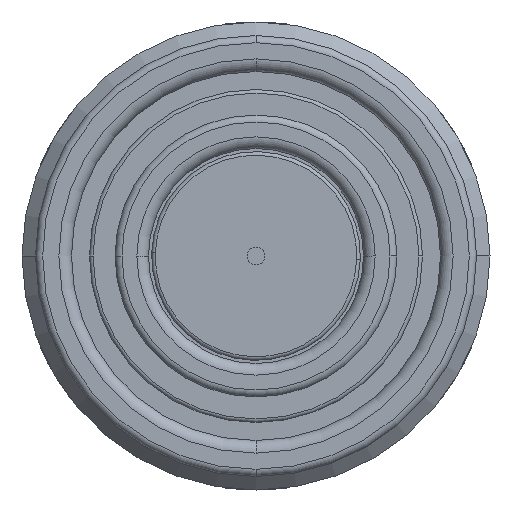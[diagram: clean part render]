
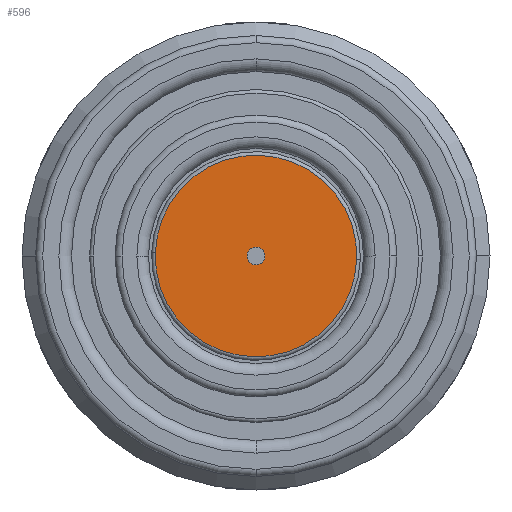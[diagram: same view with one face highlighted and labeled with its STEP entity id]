
A CAD part, front view. The second image highlights one B-rep face of the part: STEP entity #596.
In plain terms, the highlighted planar face has unit normal (0, -1, 0).
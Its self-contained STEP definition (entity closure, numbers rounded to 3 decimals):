
#270=PLANE('',#2749);
#310=FACE_BOUND('',#963,.T.);
#311=FACE_BOUND('',#964,.T.);
#596=ADVANCED_FACE('',(#310,#311),#270,.T.);
#963=EDGE_LOOP('',(#1199,#1200));
#964=EDGE_LOOP('',(#1201,#1202));
#1199=ORIENTED_EDGE('',*,*,#2130,.T.);
#1200=ORIENTED_EDGE('',*,*,#2143,.T.);
#1201=ORIENTED_EDGE('',*,*,#2142,.F.);
#1202=ORIENTED_EDGE('',*,*,#2134,.F.);
#1891=VERTEX_POINT('',#4039);
#1892=VERTEX_POINT('',#4041);
#1895=VERTEX_POINT('',#4048);
#1896=VERTEX_POINT('',#4050);
#2130=EDGE_CURVE('',#1892,#1891,#2502,.T.);
#2134=EDGE_CURVE('',#1895,#1896,#2505,.T.);
#2142=EDGE_CURVE('',#1896,#1895,#2510,.T.);
#2143=EDGE_CURVE('',#1891,#1892,#2511,.T.);
#2502=CIRCLE('',#2733,5.6);
#2505=CIRCLE('',#2737,0.5);
#2510=CIRCLE('',#2746,0.5);
#2511=CIRCLE('',#2748,5.6);
#2733=AXIS2_PLACEMENT_3D('',#4040,#3170,#3171);
#2737=AXIS2_PLACEMENT_3D('',#4049,#3179,#3180);
#2746=AXIS2_PLACEMENT_3D('',#4064,#3200,#3201);
#2748=AXIS2_PLACEMENT_3D('',#4066,#3204,#3205);
#2749=AXIS2_PLACEMENT_3D('',#4067,#3206,#3207);
#3170=DIRECTION('',(0.,-1.,0.));
#3171=DIRECTION('',(0.,0.,-1.));
#3179=DIRECTION('',(0.,-1.,0.));
#3180=DIRECTION('',(0.,0.,-1.));
#3200=DIRECTION('',(0.,-1.,0.));
#3201=DIRECTION('',(0.,0.,-1.));
#3204=DIRECTION('',(0.,-1.,0.));
#3205=DIRECTION('',(0.,0.,-1.));
#3206=DIRECTION('',(0.,-1.,0.));
#3207=DIRECTION('',(0.,0.,1.));
#4039=CARTESIAN_POINT('',(0.,0.,5.6));
#4040=CARTESIAN_POINT('',(0.,0.,0.));
#4041=CARTESIAN_POINT('',(0.,0.,-5.6));
#4048=CARTESIAN_POINT('',(0.,0.,0.5));
#4049=CARTESIAN_POINT('',(0.,0.,0.));
#4050=CARTESIAN_POINT('',(0.,0.,-0.5));
#4064=CARTESIAN_POINT('',(0.,0.,0.));
#4066=CARTESIAN_POINT('',(0.,0.,0.));
#4067=CARTESIAN_POINT('',(0.,0.,0.));
